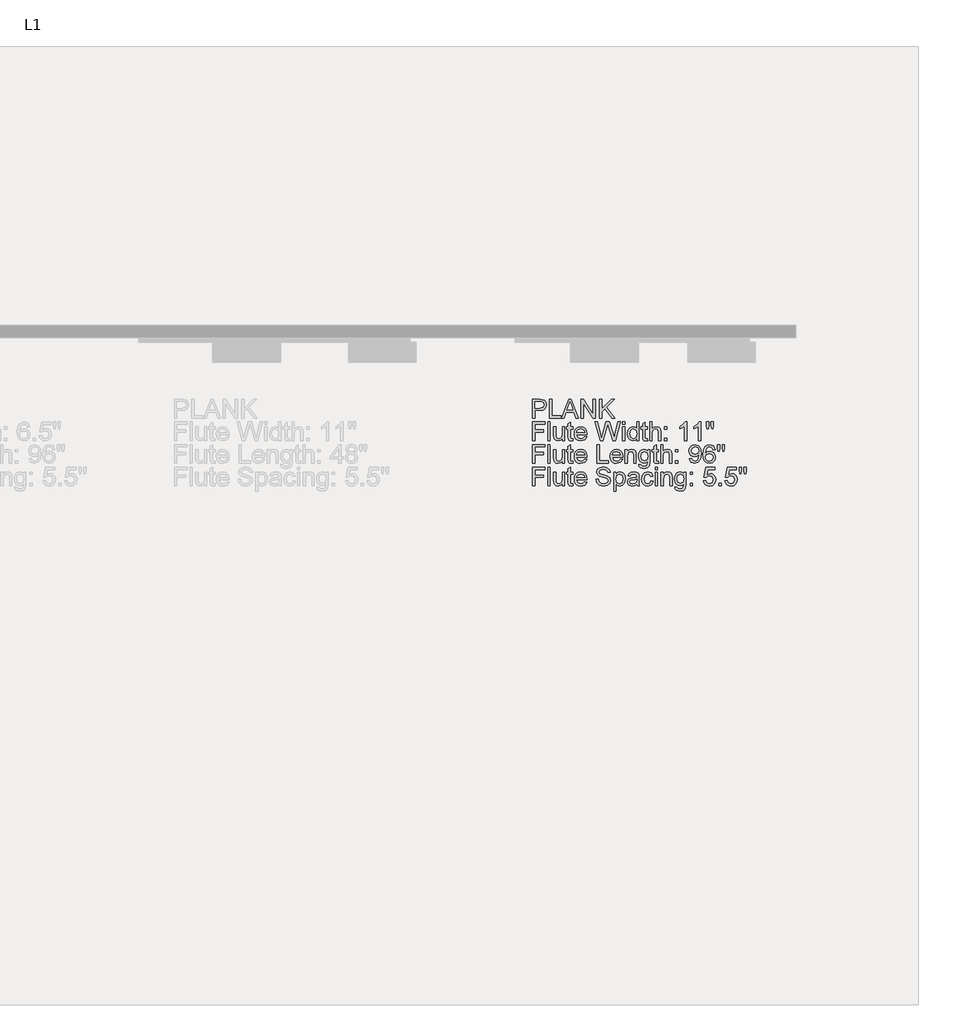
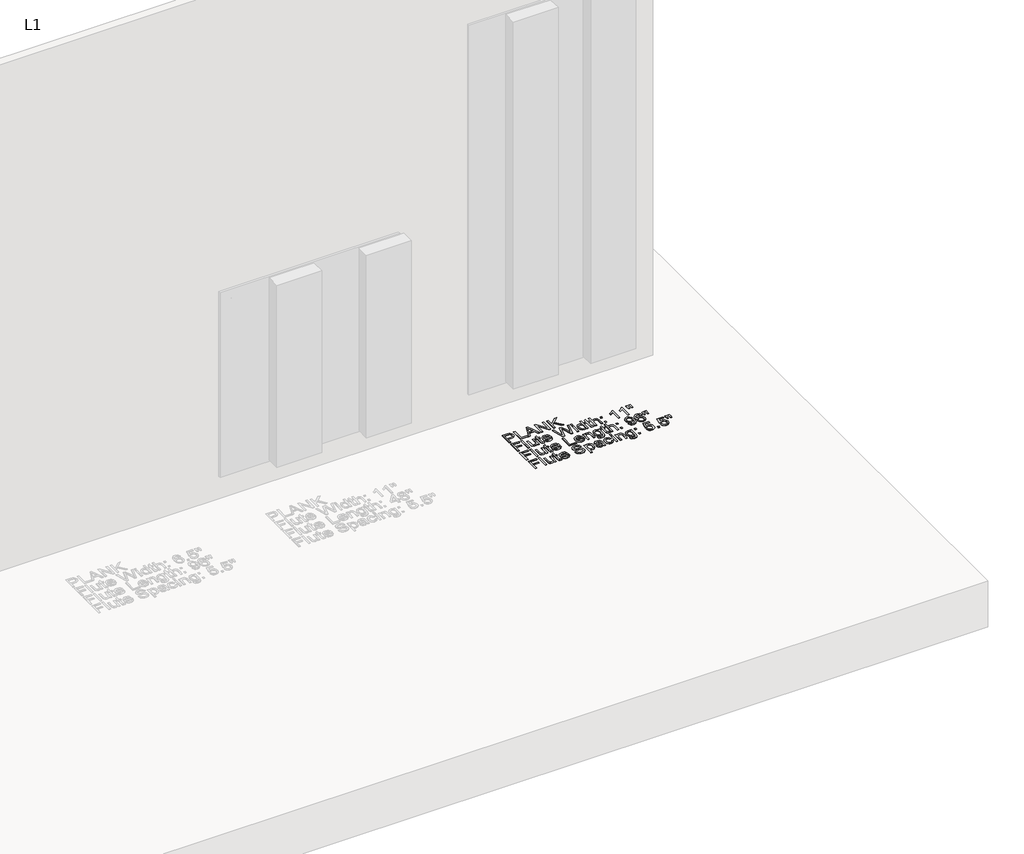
# One storey, part 16 of 17: 1 proxy.
"""IFC4 building model written with IfcOpenShell, lengths in millimetres."""

import ifcopenshell
import ifcopenshell.guid

model = None  # the IFC model being written
_history = None  # IfcOwnerHistory: only IFC2X3 demands one
_inside = {}  # id of a spatial element -> (the spatial element, [elements in it])
_under = {}  # id of a project, library or spatial element -> (it, [spatial elements below it])
_declared = {}  # id of a project -> (the project, [libraries it declares])
_typed = {}  # id of a type object -> (the type object, [elements of that type])
_made_of = {}  # id of a material, layer set ... -> (it, [elements and type objects made of it])


def new_model(schema):
    """Start an empty IFC model of exactly this schema.

    Asked for "IFC4X3", IfcOpenShell would pick the latest addendum, in which some entities
    have other attributes; the version numbers below select the first issue.
    IFC2X3 requires an IfcOwnerHistory on every rooted entity: one is made here for all.
    """
    global model, _history
    if schema == "IFC4X3":
        model = ifcopenshell.file(schema_version=(4, 3, 0, 0))
    else:
        model = ifcopenshell.file(schema=schema)
    _inside.clear()
    _under.clear()
    _declared.clear()
    _typed.clear()
    _made_of.clear()
    _history = None
    if model.schema == "IFC2X3":
        org = make("IfcOrganization", Name="unknown")
        user = make(
            "IfcPersonAndOrganization",
            ThePerson=make("IfcPerson", FamilyName="unknown"),
            TheOrganization=org,
        )
        app = make(
            "IfcApplication",
            ApplicationDeveloper=org,
            Version="unknown",
            ApplicationFullName="unknown",
            ApplicationIdentifier="unknown",
        )
        _history = make(
            "IfcOwnerHistory",
            OwningUser=user,
            OwningApplication=app,
            ChangeAction="ADDED",
            CreationDate=0,
        )
    return model


def make(cls, **values):
    """One entity of the class cls with the attributes given. An attribute that is None is left unset."""
    return model.create_entity(
        cls, **{name: value for name, value in values.items() if value is not None}
    )


def rooted(cls, **values):
    """An entity with a GlobalId (a new one), such as an element, a storey or a relation."""
    return make(cls, GlobalId=ifcopenshell.guid.new(), OwnerHistory=_history, **values)


def si_unit(unit_type, name, prefix=None):
    """IfcSIUnit, for example si_unit("LENGTHUNIT", "METRE", prefix="MILLI")."""
    return make("IfcSIUnit", UnitType=unit_type, Prefix=prefix, Name=name)


def assignment(units):
    """IfcUnitAssignment: the units of a project."""
    return None if units is None else make("IfcUnitAssignment", Units=units)


def point(xyz):
    """IfcCartesianPoint."""
    return None if xyz is None else make("IfcCartesianPoint", Coordinates=xyz)


def direction(xyz):
    """IfcDirection."""
    return None if xyz is None else make("IfcDirection", DirectionRatios=xyz)


def frame(location, z_axis=None, x_axis=None):
    """IfcAxis2Placement3D, a coordinate frame: its origin and axes. An axis left out is left unset."""
    return make(
        "IfcAxis2Placement3D",
        Location=point(location),
        Axis=direction(z_axis),
        RefDirection=direction(x_axis),
    )


def origin():
    """The frame at (0, 0, 0) with its axes left unset."""
    return frame((0.0, 0.0, 0.0))


def origin_with_axes():
    """The frame at (0, 0, 0) with the z axis (0, 0, 1) and the x axis (1, 0, 0) written out."""
    return frame((0.0, 0.0, 0.0), z_axis=(0.0, 0.0, 1.0), x_axis=(1.0, 0.0, 0.0))


def place(relative_to, where):
    """IfcLocalPlacement: puts the frame where relative to a parent placement (None: the world)."""
    return make(
        "IfcLocalPlacement", PlacementRelTo=relative_to, RelativePlacement=where
    )


def context(
    kind, dimensions, precision=None, world=None, true_north=None, identifier=None
):
    """IfcGeometricRepresentationContext, for example the 3D "Model" context."""
    return make(
        "IfcGeometricRepresentationContext",
        ContextIdentifier=identifier,
        ContextType=kind,
        CoordinateSpaceDimension=dimensions,
        Precision=precision,
        WorldCoordinateSystem=world,
        TrueNorth=true_north,
    )


def project(units=None, contexts=None):
    """IfcProject with its units and contexts."""
    return rooted(
        "IfcProject",
        Name="project",
        RepresentationContexts=contexts,
        UnitsInContext=assignment(units),
    )


def spatial(cls, under=None, at=None, **own):
    """A site, building, storey or space (cls), placed at a placement, below another one or the project."""
    s = rooted(cls, ObjectPlacement=at, **own)
    if under is not None:
        _under.setdefault(under.id(), (under, []))[1].append(s)
    return s


def polyline(points):
    """IfcPolyline through the points."""
    return make("IfcPolyline", Points=[point(p) for p in points])


def outline(outer, holes=None, kind="AREA"):
    """IfcArbitraryClosedProfileDef: a profile drawn as a closed curve; with holes, ...WithVoids."""
    if holes is None:
        return make("IfcArbitraryClosedProfileDef", ProfileType=kind, OuterCurve=outer)
    return make(
        "IfcArbitraryProfileDefWithVoids",
        ProfileType=kind,
        OuterCurve=outer,
        InnerCurves=holes,
    )


def extrude(swept, where, along, depth):
    """IfcExtrudedAreaSolid: the profile swept, set in the frame where, extruded along a direction by depth."""
    return make(
        "IfcExtrudedAreaSolid",
        SweptArea=swept,
        Position=where,
        ExtrudedDirection=direction(along),
        Depth=depth,
    )


def shape(context_of_items, identifier, shape_type, items):
    """IfcShapeRepresentation: the items that make up one representation, for example the "Body"."""
    return make(
        "IfcShapeRepresentation",
        ContextOfItems=context_of_items,
        RepresentationIdentifier=identifier,
        RepresentationType=shape_type,
        Items=items,
    )


def made_of(thing, what):
    """Note that an element or type object is made of a material, layer set ...; save() writes the relation."""
    if what is not None:
        _made_of.setdefault(what.id(), (what, []))[1].append(thing)
    return thing


def element(
    cls,
    number,
    at=None,
    inside=None,
    cuts=None,
    type_object=None,
    material=None,
    context=None,
    identifier="Body",
    shape_type=None,
    held_by="IfcProductDefinitionShape",
    body=None,
    shapes=None,
    **own,
):
    """One element of the class cls, such as IfcWall. Its Tag is "e" and its number.

    at: its placement. inside: the storey or other place that contains it. cuts: it is an
    opening in that element (IfcRelVoidsElement). A single representation is given by context,
    identifier, shape_type and body (its items); several are given by shapes. held_by: the class
    of the entity that holds the representations. save() writes the other relations.
    """
    e = rooted(cls, Tag="e%d" % number, ObjectPlacement=at, **own)
    if body is not None:
        shapes = [shape(context, identifier, shape_type, body)]
    if shapes is not None:
        e.Representation = make(held_by, Representations=shapes)
    if inside is not None:
        _inside.setdefault(inside.id(), (inside, []))[1].append(e)
    if cuts is not None:
        rooted(
            "IfcRelVoidsElement", RelatingBuildingElement=cuts, RelatedOpeningElement=e
        )
    if type_object is not None:
        _typed.setdefault(type_object.id(), (type_object, []))[1].append(e)
    return made_of(e, material)


def aggregate(whole, parts):
    """IfcRelAggregates: a whole, such as a stair, and the parts it consists of."""
    return rooted("IfcRelAggregates", RelatingObject=whole, RelatedObjects=parts)


def save(model, path):
    """Write the relations noted so far, then the file.

    IfcRelAggregates (storeys below a building ...), IfcRelContainedInSpatialStructure (elements
    in a storey), IfcRelDefinesByType, IfcRelAssociatesMaterial and IfcRelDeclares: one each for
    every whole, place, type object, material and project.
    """
    for whole, parts in _under.values():
        aggregate(whole, parts)
    for where, things in _inside.values():
        rooted(
            "IfcRelContainedInSpatialStructure",
            RelatedElements=things,
            RelatingStructure=where,
        )
    for kind, things in _typed.values():
        rooted("IfcRelDefinesByType", RelatedObjects=things, RelatingType=kind)
    for what, things in _made_of.values():
        rooted("IfcRelAssociatesMaterial", RelatedObjects=things, RelatingMaterial=what)
    for by, libraries in _declared.values():
        rooted("IfcRelDeclares", RelatingContext=by, RelatedDefinitions=libraries)
    model.write(path)


model = new_model("IFC4")

# Units and contexts
model_context = context("Model", 3, world=origin())
ifc_project = project(units=[si_unit("LENGTHUNIT", "METRE", prefix="MILLI")], contexts=[model_context])

# Site, building, storey
site = spatial("IfcSite", under=ifc_project)
building = spatial("IfcBuilding", under=site)
storey = spatial("IfcBuildingStorey", under=building, Name="L1", Elevation=0.0)

# Proxy
placement = place(None, origin())
element("IfcBuildingElementProxy", 1, Name="3\" Arial", ObjectType="3\" Arial", at=placement, inside=storey, context=model_context, shape_type="SweptSolid", body=[
    extrude(outline(polyline([(17616.9224056, -355.6), (17616.9224056, -279.0522917), (17645.2914049, -279.0522917), (17656.728709, -279.7811395), (17666.0261907, -283.3599691), (17672.0532014, -290.7605776), (17674.3331868, -301.198052), (17672.7937295, -310.2198797), (17668.1753573, -317.7372908), (17659.538978, -322.8111928), (17645.9454991, -324.5024935), (17626.4908691, -324.5024935), (17626.4908691, -355.6), (17616.9224056, -355.6)]), holes=[polyline([(17626.4908691, -314.9340299), (17646.5061513, -314.9340299), (17660.5972089, -311.4206097), (17664.7647233, -301.5344433), (17662.307198, -293.6105594), (17655.850354, -289.2748494), (17646.2818904, -288.6207552), (17626.4908691, -288.6207552), (17626.4908691, -314.9340299)])]), origin_with_axes(), (0.0, 0.0, 1.0), 3.175),
    extrude(outline(polyline([(17687.4898242, -355.6), (17687.4898242, -279.0522917), (17697.0582878, -279.0522917), (17697.0582878, -346.0315365), (17735.3321419, -346.0315365), (17735.3321419, -355.6), (17687.4898242, -355.6)])), origin_with_axes(), (0.0, 0.0, 1.0), 3.175),
    extrude(outline(polyline([(17737.2009825, -355.6), (17767.7565252, -279.0522917), (17775.90467, -279.0522917), (17806.4415243, -355.6), (17796.331097, -355.6), (17787.5849233, -331.6788411), (17756.0388951, -331.6788411), (17747.2927214, -355.6), (17737.2009825, -355.6)]), holes=[polyline([(17759.5523153, -322.1103776), (17784.0901915, -322.1103776), (17777.1754815, -303.2911534), (17771.8119092, -288.6207552), (17767.0463658, -301.6465737), (17759.5523153, -322.1103776)])]), origin_with_axes(), (0.0, 0.0, 1.0), 3.175),
    extrude(outline(polyline([(17816.664082, -355.6), (17816.664082, -279.0522917), (17826.9053282, -279.0522917), (17866.8985156, -339.696167), (17866.8985156, -279.0522917), (17876.4669792, -279.0522917), (17876.4669792, -355.6), (17866.225733, -355.6), (17826.2325456, -294.9374362), (17826.2325456, -355.6), (17816.664082, -355.6)])), origin_with_axes(), (0.0, 0.0, 1.0), 3.175),
    extrude(outline(polyline([(17893.2117904, -355.6), (17893.2117904, -279.0522917), (17902.7802539, -279.0522917), (17902.7802539, -316.5225444), (17942.0259052, -279.0522917), (17955.4068034, -279.0522917), (17922.4404563, -310.5235663), (17956.6028613, -355.6), (17944.9039196, -355.6), (17915.6565652, -316.9897545), (17902.7802539, -329.2867253), (17902.7802539, -355.6), (17893.2117904, -355.6)])), origin_with_axes(), (0.0, 0.0, 1.0), 3.175),
    extrude(outline(polyline([(17616.9224056, -448.5448112), (17616.9224056, -371.9971029), (17668.3528971, -371.9971029), (17668.3528971, -381.5655664), (17626.4908691, -381.5655664), (17626.4908691, -404.2906673), (17662.3726074, -404.2906673), (17662.3726074, -413.8591309), (17626.4908691, -413.8591309), (17626.4908691, -448.5448112), (17616.9224056, -448.5448112)])), origin_with_axes(), (0.0, 0.0, 1.0), 3.175),
    extrude(outline(polyline([(17680.3134766, -448.5448112), (17680.3134766, -371.9971029), (17689.8819401, -371.9971029), (17689.8819401, -448.5448112), (17680.3134766, -448.5448112)])), origin_with_axes(), (0.0, 0.0, 1.0), 3.175),
    extrude(outline(polyline([(17740.1163737, -448.5448112), (17740.1163737, -438.8829056), (17732.6223232, -447.0263783), (17722.8482872, -449.7408691), (17713.84982, -447.8346518), (17707.6452694, -443.05042), (17704.7952876, -436.0048912), (17704.2346354, -427.1092103), (17704.2346354, -392.3300879), (17713.803099, -392.3300879), (17713.803099, -422.6053046), (17714.3824395, -432.3606522), (17718.1668416, -438.0886484), (17725.2964683, -440.1724056), (17733.2857615, -438.0419274), (17738.5652361, -432.2391775), (17740.1163737, -421.5774423), (17740.1163737, -392.3300879), (17749.6848372, -392.3300879), (17749.6848372, -448.5448112), (17740.1163737, -448.5448112)])), origin_with_axes(), (0.0, 0.0, 1.0), 3.175),
    extrude(outline(polyline([(17783.1744596, -440.5648621), (17784.3705176, -448.8251373), (17777.2128583, -449.7408691), (17769.1955324, -448.1523547), (17765.1962137, -443.9848403), (17764.0375326, -433.1268768), (17764.0375326, -401.8985514), (17756.8611849, -401.8985514), (17756.8611849, -392.3300879), (17764.0375326, -392.3300879), (17764.0375326, -378.6688636), (17773.6059961, -373.0436536), (17773.6059961, -392.3300879), (17783.1744596, -392.3300879), (17783.1744596, -401.8985514), (17773.6059961, -401.8985514), (17773.6059961, -432.8465507), (17774.110583, -437.7802897), (17775.7458185, -439.5276556), (17779.0069452, -440.1724056), (17783.1744596, -440.5648621)])), origin_with_axes(), (0.0, 0.0, 1.0), 3.175),
    extrude(outline(polyline([(17832.1007049, -431.8), (17841.4822843, -432.9960579), (17832.708078, -445.3490939), (17816.3650675, -449.7408691), (17805.138008, -447.846332), (17796.4992927, -442.1627208), (17790.9908852, -433.0591313), (17789.1547494, -420.9046597), (17791.0095736, -408.3413792), (17796.5740463, -398.9457834), (17805.0959591, -393.0869683), (17815.8231038, -391.1340299), (17826.2161932, -393.0822962), (17834.5208533, -398.927095), (17839.9661875, -408.3040024), (17841.7812988, -420.8485945), (17841.7252336, -423.4275944), (17798.7232129, -423.4275944), (17804.2269483, -435.855384), (17816.5519516, -440.1724056), (17825.9335311, -438.1727462), (17832.1007049, -431.8)]), holes=[polyline([(17798.7232129, -413.8591309), (17832.2128353, -413.8591309), (17828.3817122, -405.1877108), (17815.785727, -400.7024935), (17804.0026874, -404.2813231), (17798.7232129, -413.8591309)])]), origin_with_axes(), (0.0, 0.0, 1.0), 3.175),
    extrude(outline(polyline([(17896.14587, -448.5448112), (17875.2709212, -371.9971029), (17885.1383993, -371.9971029), (17897.2484859, -422.3062901), (17900.986167, -437.8363549), (17904.9854857, -424.100377), (17920.1604709, -371.9971029), (17934.3823474, -371.9971029), (17945.4085065, -409.7663701), (17953.6127165, -437.8363549), (17957.2382671, -422.7548118), (17969.4417958, -371.9971029), (17979.3279622, -371.9971029), (17958.4717019, -448.5448112), (17948.2304557, -448.5448112), (17929.8597533, -389.4894503), (17927.2994417, -381.2478635), (17924.4214273, -391.1714068), (17907.6953045, -448.5448112), (17896.14587, -448.5448112)])), origin_with_axes(), (0.0, 0.0, 1.0), 3.175),
    extrude(outline(polyline([(17987.7003678, -381.5655664), (17987.7003678, -371.9971029), (17997.2688314, -371.9971029), (17997.2688314, -381.5655664), (17987.7003678, -381.5655664)])), origin_with_axes(), (0.0, 0.0, 1.0), 3.175),
    extrude(outline(polyline([(17987.7003678, -448.5448112), (17987.7003678, -392.3300879), (17997.2688314, -392.3300879), (17997.2688314, -448.5448112), (17987.7003678, -448.5448112)])), origin_with_axes(), (0.0, 0.0, 1.0), 3.175),
    extrude(outline(polyline([(18046.307207, -448.5448112), (18046.307207, -439.5183114), (18039.9765097, -447.1852297), (18031.2256639, -449.7408691), (18019.3772149, -446.0405649), (18011.0048093, -435.7152209), (18008.0333529, -420.4935148), (18010.7712043, -405.2624644), (18018.9754142, -394.778269), (18031.1882871, -391.1340299), (18040.0092144, -393.7410625), (18046.307207, -400.5156094), (18046.307207, -371.9971029), (18055.8756706, -371.9971029), (18055.8756706, -448.5448112), (18046.307207, -448.5448112)]), holes=[polyline([(18017.6018164, -420.4561379), (18021.918838, -435.2666992), (18032.104019, -440.1724056), (18042.1677252, -435.4909601), (18046.307207, -421.1849858), (18042.0929716, -405.6549209), (18031.7115625, -400.7024935), (18021.638512, -405.4586927), (18017.6018164, -420.4561379)])]), origin_with_axes(), (0.0, 0.0, 1.0), 3.175),
    extrude(outline(polyline([(18090.5613509, -440.5648621), (18091.7574089, -448.8251373), (18084.5997496, -449.7408691), (18076.5824237, -448.1523547), (18072.583105, -443.9848403), (18071.4244238, -433.1268768), (18071.4244238, -401.8985514), (18064.2480762, -401.8985514), (18064.2480762, -392.3300879), (18071.4244238, -392.3300879), (18071.4244238, -378.6688636), (18080.9928874, -373.0436536), (18080.9928874, -392.3300879), (18090.5613509, -392.3300879), (18090.5613509, -401.8985514), (18080.9928874, -401.8985514), (18080.9928874, -432.8465507), (18081.4974743, -437.7802897), (18083.1327098, -439.5276556), (18086.3938365, -440.1724056), (18090.5613509, -440.5648621)])), origin_with_axes(), (0.0, 0.0, 1.0), 3.175),
    extrude(outline(polyline([(18100.1298145, -448.5448112), (18100.1298145, -371.9971029), (18109.698278, -371.9971029), (18109.698278, -400.1418413), (18117.1596238, -393.3859828), (18126.3496472, -391.1340299), (18137.0954802, -393.5915553), (18143.6177337, -400.3847906), (18145.5800163, -412.9620874), (18145.5800163, -448.5448112), (18136.0115527, -448.5448112), (18136.0115527, -413.9525729), (18132.9653427, -403.860834), (18124.3312994, -400.7024935), (18116.4915133, -402.8329717), (18111.2587598, -408.607689), (18109.698278, -418.6807394), (18109.698278, -448.5448112), (18100.1298145, -448.5448112)])), origin_with_axes(), (0.0, 0.0, 1.0), 3.175),
    extrude(outline(polyline([(18161.1287695, -401.8985514), (18161.1287695, -392.3300879), (18170.6972331, -392.3300879), (18170.6972331, -401.8985514), (18161.1287695, -401.8985514)])), origin_with_axes(), (0.0, 0.0, 1.0), 3.175),
    extrude(outline(polyline([(18161.1287695, -448.5448112), (18161.1287695, -438.9763477), (18170.6972331, -438.9763477), (18170.6972331, -448.5448112), (18161.1287695, -448.5448112)])), origin_with_axes(), (0.0, 0.0, 1.0), 3.175),
    extrude(outline(polyline([(18252.0291732, -448.5448112), (18242.4607096, -448.5448112), (18242.4607096, -388.8914213), (18233.396833, -395.3482654), (18223.3237826, -400.1792181), (18223.3237826, -391.1340299), (18237.3494308, -382.1822838), (18245.8619994, -371.9971029), (18252.0291732, -371.9971029), (18252.0291732, -448.5448112)])), origin_with_axes(), (0.0, 0.0, 1.0), 3.175),
    extrude(outline(polyline([(18310.6360124, -448.5448112), (18301.0675488, -448.5448112), (18301.0675488, -388.8914213), (18292.0036722, -395.3482654), (18281.9306218, -400.1792181), (18281.9306218, -391.1340299), (18295.95627, -382.1822838), (18304.4688386, -371.9971029), (18310.6360124, -371.9971029), (18310.6360124, -448.5448112)])), origin_with_axes(), (0.0, 0.0, 1.0), 3.175),
    extrude(outline(polyline([(18335.697164, -399.5064355), (18333.3611133, -384.7239069), (18333.3611133, -371.9971029), (18342.9295768, -371.9971029), (18342.9295768, -384.7239069), (18340.8364754, -399.5064355), (18335.697164, -399.5064355)])), origin_with_axes(), (0.0, 0.0, 1.0), 3.175),
    extrude(outline(polyline([(18354.7780258, -399.5064355), (18352.4980404, -384.7239069), (18352.4980404, -371.9971029), (18362.0665039, -371.9971029), (18362.0665039, -384.7239069), (18359.8238953, -399.5064355), (18354.7780258, -399.5064355)])), origin_with_axes(), (0.0, 0.0, 1.0), 3.175),
    extrude(outline(polyline([(17616.9224056, -541.4896224), (17616.9224056, -464.9419141), (17668.3528971, -464.9419141), (17668.3528971, -474.5103776), (17626.4908691, -474.5103776), (17626.4908691, -497.2354785), (17662.3726074, -497.2354785), (17662.3726074, -506.8039421), (17626.4908691, -506.8039421), (17626.4908691, -541.4896224), (17616.9224056, -541.4896224)])), origin_with_axes(), (0.0, 0.0, 1.0), 3.175),
    extrude(outline(polyline([(17680.3134766, -541.4896224), (17680.3134766, -464.9419141), (17689.8819401, -464.9419141), (17689.8819401, -541.4896224), (17680.3134766, -541.4896224)])), origin_with_axes(), (0.0, 0.0, 1.0), 3.175),
    extrude(outline(polyline([(17740.1163737, -541.4896224), (17740.1163737, -531.8277168), (17732.6223232, -539.9711895), (17722.8482872, -542.6856803), (17713.84982, -540.779463), (17707.6452694, -535.9952312), (17704.7952876, -528.9497024), (17704.2346354, -520.0540215), (17704.2346354, -485.2748991), (17713.803099, -485.2748991), (17713.803099, -515.5501158), (17714.3824395, -525.3054634), (17718.1668416, -531.0334596), (17725.2964683, -533.1172168), (17733.2857615, -530.9867386), (17738.5652361, -525.1839887), (17740.1163737, -514.5222535), (17740.1163737, -485.2748991), (17749.6848372, -485.2748991), (17749.6848372, -541.4896224), (17740.1163737, -541.4896224)])), origin_with_axes(), (0.0, 0.0, 1.0), 3.175),
    extrude(outline(polyline([(17783.1744596, -533.5096733), (17784.3705176, -541.7699485), (17777.2128583, -542.6856803), (17769.1955324, -541.0971659), (17765.1962137, -536.9296515), (17764.0375326, -526.071688), (17764.0375326, -494.8433626), (17756.8611849, -494.8433626), (17756.8611849, -485.2748991), (17764.0375326, -485.2748991), (17764.0375326, -471.6136748), (17773.6059961, -465.9884648), (17773.6059961, -485.2748991), (17783.1744596, -485.2748991), (17783.1744596, -494.8433626), (17773.6059961, -494.8433626), (17773.6059961, -525.7913619), (17774.110583, -530.7251009), (17775.7458185, -532.4724668), (17779.0069452, -533.1172168), (17783.1744596, -533.5096733)])), origin_with_axes(), (0.0, 0.0, 1.0), 3.175),
    extrude(outline(polyline([(17832.1007049, -524.7448112), (17841.4822843, -525.9408691), (17832.708078, -538.2939051), (17816.3650675, -542.6856803), (17805.138008, -540.7911432), (17796.4992927, -535.107532), (17790.9908852, -526.0039425), (17789.1547494, -513.8494709), (17791.0095736, -501.2861904), (17796.5740463, -491.8905946), (17805.0959591, -486.0317795), (17815.8231038, -484.0788411), (17826.2161932, -486.0271074), (17834.5208533, -491.8719062), (17839.9661875, -501.2488136), (17841.7812988, -513.7934057), (17841.7252336, -516.3724056), (17798.7232129, -516.3724056), (17804.2269483, -528.8001952), (17816.5519516, -533.1172168), (17825.9335311, -531.1175574), (17832.1007049, -524.7448112)]), holes=[polyline([(17798.7232129, -506.8039421), (17832.2128353, -506.8039421), (17828.3817122, -498.132522), (17815.785727, -493.6473047), (17804.0026874, -497.2261343), (17798.7232129, -506.8039421)])]), origin_with_axes(), (0.0, 0.0, 1.0), 3.175),
    extrude(outline(polyline([(17882.4472689, -541.4896224), (17882.4472689, -464.9419141), (17892.0157324, -464.9419141), (17892.0157324, -531.9211589), (17930.2895866, -531.9211589), (17930.2895866, -541.4896224), (17882.4472689, -541.4896224)])), origin_with_axes(), (0.0, 0.0, 1.0), 3.175),
    extrude(outline(polyline([(17979.2158318, -524.7448112), (17988.5974113, -525.9408691), (17979.823205, -538.2939051), (17963.4801945, -542.6856803), (17952.253135, -540.7911432), (17943.6144196, -535.107532), (17938.1060121, -526.0039425), (17936.2698763, -513.8494709), (17938.1247005, -501.2861904), (17943.6891732, -491.8905946), (17952.2110861, -486.0317795), (17962.9382307, -484.0788411), (17973.3313202, -486.0271074), (17981.6359803, -491.8719062), (17987.0813144, -501.2488136), (17988.8964258, -513.7934057), (17988.8403606, -516.3724056), (17945.8383398, -516.3724056), (17951.3420752, -528.8001952), (17963.6670786, -533.1172168), (17973.048658, -531.1175574), (17979.2158318, -524.7448112)]), holes=[polyline([(17945.8383398, -506.8039421), (17979.3279622, -506.8039421), (17975.4968391, -498.132522), (17962.9008539, -493.6473047), (17951.1178144, -497.2261343), (17945.8383398, -506.8039421)])]), origin_with_axes(), (0.0, 0.0, 1.0), 3.175),
    extrude(outline(polyline([(17998.4648893, -541.4896224), (17998.4648893, -485.2748991), (18008.0333529, -485.2748991), (18008.0333529, -493.1240293), (18015.3498636, -486.3401382), (18025.3388162, -484.0788411), (18034.3746602, -485.9009607), (18040.541834, -490.6851924), (18043.4105042, -497.7213771), (18043.9150911, -506.9721377), (18043.9150911, -541.4896224), (18034.3466276, -541.4896224), (18034.3466276, -508.2616377), (18033.2440117, -499.79579), (18029.3474792, -495.319917), (18022.7785047, -493.6473047), (18012.3970955, -497.4036742), (18008.0333529, -511.6629274), (18008.0333529, -541.4896224), (17998.4648893, -541.4896224)])), origin_with_axes(), (0.0, 0.0, 1.0), 3.175),
    extrude(outline(polyline([(18054.6796126, -546.2738542), (18064.2480762, -547.4699121), (18067.3503515, -552.5157816), (18076.6384889, -554.6462598), (18086.4312133, -552.2354555), (18091.1033147, -545.4702527), (18091.7574089, -534.3132747), (18085.0202387, -539.6955355), (18076.8066846, -541.4896224), (18066.9415426, -539.4011931), (18059.585319, -533.1359052), (18055.0089958, -523.950554), (18053.4835547, -513.1019347), (18056.2214061, -498.272685), (18064.1452899, -487.7791454), (18076.3394744, -484.0788411), (18084.8754036, -486.1719425), (18091.7574089, -492.4512467), (18091.7574089, -485.2748991), (18101.3258724, -485.2748991), (18101.3258724, -533.8086878), (18098.7094957, -552.3943069), (18090.4211879, -561.0376944), (18076.4516049, -564.2147233), (18060.5384277, -559.7388502), (18056.0415302, -554.1346647), (18054.6796126, -546.2738542)]), holes=[polyline([(18063.0520182, -512.4478405), (18067.1354348, -527.2584017), (18077.3860251, -531.9211589), (18087.6179271, -527.2864343), (18091.7574089, -512.7281666), (18087.4964524, -498.4595691), (18077.2365179, -493.6473047), (18067.1915, -498.3848154), (18063.0520182, -512.4478405)])]), origin_with_axes(), (0.0, 0.0, 1.0), 3.175),
    extrude(outline(polyline([(18136.0115527, -533.5096733), (18137.2076107, -541.7699485), (18130.0499514, -542.6856803), (18122.0326255, -541.0971659), (18118.0333068, -536.9296515), (18116.8746257, -526.071688), (18116.8746257, -494.8433626), (18109.698278, -494.8433626), (18109.698278, -485.2748991), (18116.8746257, -485.2748991), (18116.8746257, -471.6136748), (18126.4430892, -465.9884648), (18126.4430892, -485.2748991), (18136.0115527, -485.2748991), (18136.0115527, -494.8433626), (18126.4430892, -494.8433626), (18126.4430892, -525.7913619), (18126.9476761, -530.7251009), (18128.5829116, -532.4724668), (18131.8440383, -533.1172168), (18136.0115527, -533.5096733)])), origin_with_axes(), (0.0, 0.0, 1.0), 3.175),
    extrude(outline(polyline([(18145.5800163, -541.4896224), (18145.5800163, -464.9419141), (18155.1484798, -464.9419141), (18155.1484798, -493.0866525), (18162.6098257, -486.330794), (18171.799849, -484.0788411), (18182.5456821, -486.5363664), (18189.0679355, -493.3296018), (18191.0302181, -505.9068986), (18191.0302181, -541.4896224), (18181.4617546, -541.4896224), (18181.4617546, -506.8973841), (18178.4155445, -496.8056452), (18169.7815012, -493.6473047), (18161.9417152, -495.7777829), (18156.7089617, -501.5525002), (18155.1484798, -511.6255506), (18155.1484798, -541.4896224), (18145.5800163, -541.4896224)])), origin_with_axes(), (0.0, 0.0, 1.0), 3.175),
    extrude(outline(polyline([(18206.5789714, -494.8433626), (18206.5789714, -485.2748991), (18216.1474349, -485.2748991), (18216.1474349, -494.8433626), (18206.5789714, -494.8433626)])), origin_with_axes(), (0.0, 0.0, 1.0), 3.175),
    extrude(outline(polyline([(18206.5789714, -541.4896224), (18206.5789714, -531.9211589), (18216.1474349, -531.9211589), (18216.1474349, -541.4896224), (18206.5789714, -541.4896224)])), origin_with_axes(), (0.0, 0.0, 1.0), 3.175),
    extrude(outline(polyline([(18262.7936947, -522.3526953), (18272.3621582, -521.1566374), (18276.6604914, -530.2859234), (18284.8086362, -533.1172168), (18292.5549802, -531.2950973), (18297.8064221, -526.4267677), (18300.93673, -518.1104273), (18302.319672, -507.0095145), (18302.2636068, -505.140674), (18294.6107048, -512.3917753), (18284.1171652, -515.1763477), (18275.3920159, -513.4757028), (18268.1292344, -508.3737681), (18263.2305361, -500.4919331), (18261.5976367, -490.4515874), (18263.3099619, -480.0795224), (18268.4469373, -471.9500661), (18276.1629126, -466.6939521), (18285.6122376, -464.9419141), (18299.2454293, -468.9412328), (18308.6270088, -480.3411601), (18311.8320703, -501.7580726), (18308.636353, -524.9971047), (18299.1332989, -538.1630862), (18284.3601144, -542.6856803), (18269.6523394, -537.3501406), (18262.7936947, -522.3526953)]), holes=[polyline([(18302.2636068, -490.2273265), (18298.1334692, -478.7526456), (18287.1633753, -474.5103776), (18275.6513176, -479.0796927), (18271.1661003, -490.9187975), (18275.4083683, -501.5244675), (18286.9017376, -505.6078841), (18297.9372409, -501.5244675), (18302.2636068, -490.2273265)])]), origin_with_axes(), (0.0, 0.0, 1.0), 3.175),
    extrude(outline(polyline([(18369.2428516, -485.2748991), (18359.674388, -486.470957), (18356.0488374, -478.4910079), (18346.4616854, -474.5103776), (18337.8276422, -476.8277399), (18331.2960445, -485.5271926), (18328.5768815, -502.5803624), (18337.0146965, -494.9461489), (18347.4708593, -492.4512467), (18356.3104751, -494.1565637), (18363.729772, -499.2725147), (18368.7616251, -507.0889402), (18370.4389095, -516.8956809), (18367.280569, -530.0990393), (18358.5904605, -539.443242), (18346.0505405, -542.6856803), (18335.1949131, -540.5365137), (18326.5491895, -534.0890139), (18320.8936109, -522.707775), (18319.008418, -505.7573914), (18321.1015194, -486.69989), (18327.3808236, -473.6693994), (18335.9541295, -467.1237854), (18347.0597144, -464.9419141), (18362.1786343, -470.3428632), (18369.2428516, -485.2748991)]), holes=[polyline([(18328.5768815, -516.7461737), (18330.7914576, -525.0344815), (18336.6783052, -531.052148), (18345.3030043, -533.1172168), (18356.5814569, -528.837572), (18360.870446, -517.2133838), (18356.6375222, -506.0844385), (18344.9105478, -502.0197103), (18333.3330807, -506.0844385), (18328.5768815, -516.7461737)])]), origin_with_axes(), (0.0, 0.0, 1.0), 3.175),
    extrude(outline(polyline([(18381.1473658, -492.4512467), (18378.8113151, -477.6687181), (18378.8113151, -464.9419141), (18388.3797787, -464.9419141), (18388.3797787, -477.6687181), (18386.2866773, -492.4512467), (18381.1473658, -492.4512467)])), origin_with_axes(), (0.0, 0.0, 1.0), 3.175),
    extrude(outline(polyline([(18400.2282276, -492.4512467), (18397.9482422, -477.6687181), (18397.9482422, -464.9419141), (18407.5167057, -464.9419141), (18407.5167057, -477.6687181), (18405.2740971, -492.4512467), (18400.2282276, -492.4512467)])), origin_with_axes(), (0.0, 0.0, 1.0), 3.175),
    extrude(outline(polyline([(17616.9224056, -634.4344336), (17616.9224056, -557.8867253), (17668.3528971, -557.8867253), (17668.3528971, -567.4551888), (17626.4908691, -567.4551888), (17626.4908691, -590.1802897), (17662.3726074, -590.1802897), (17662.3726074, -599.7487533), (17626.4908691, -599.7487533), (17626.4908691, -634.4344336), (17616.9224056, -634.4344336)])), origin_with_axes(), (0.0, 0.0, 1.0), 3.175),
    extrude(outline(polyline([(17680.3134766, -634.4344336), (17680.3134766, -557.8867253), (17689.8819401, -557.8867253), (17689.8819401, -634.4344336), (17680.3134766, -634.4344336)])), origin_with_axes(), (0.0, 0.0, 1.0), 3.175),
    extrude(outline(polyline([(17740.1163737, -634.4344336), (17740.1163737, -624.772528), (17732.6223232, -632.9160007), (17722.8482872, -635.6304915), (17713.84982, -633.7242742), (17707.6452694, -628.9400424), (17704.7952876, -621.8945136), (17704.2346354, -612.9988327), (17704.2346354, -578.2197103), (17713.803099, -578.2197103), (17713.803099, -608.494927), (17714.3824395, -618.2502746), (17718.1668416, -623.9782708), (17725.2964683, -626.062028), (17733.2857615, -623.9315498), (17738.5652361, -618.1287999), (17740.1163737, -607.4670647), (17740.1163737, -578.2197103), (17749.6848372, -578.2197103), (17749.6848372, -634.4344336), (17740.1163737, -634.4344336)])), origin_with_axes(), (0.0, 0.0, 1.0), 3.175),
    extrude(outline(polyline([(17783.1744596, -626.4544845), (17784.3705176, -634.7147597), (17777.2128583, -635.6304915), (17769.1955324, -634.0419771), (17765.1962137, -629.8744627), (17764.0375326, -619.0164992), (17764.0375326, -587.7881738), (17756.8611849, -587.7881738), (17756.8611849, -578.2197103), (17764.0375326, -578.2197103), (17764.0375326, -564.558486), (17773.6059961, -558.933276), (17773.6059961, -578.2197103), (17783.1744596, -578.2197103), (17783.1744596, -587.7881738), (17773.6059961, -587.7881738), (17773.6059961, -618.7361731), (17774.110583, -623.6699121), (17775.7458185, -625.417278), (17779.0069452, -626.062028), (17783.1744596, -626.4544845)])), origin_with_axes(), (0.0, 0.0, 1.0), 3.175),
    extrude(outline(polyline([(17832.1007049, -617.6896224), (17841.4822843, -618.8856803), (17832.708078, -631.2387163), (17816.3650675, -635.6304915), (17805.138008, -633.7359544), (17796.4992927, -628.0523432), (17790.9908852, -618.9487537), (17789.1547494, -606.7942821), (17791.0095736, -594.2310016), (17796.5740463, -584.8354058), (17805.0959591, -578.9765907), (17815.8231038, -577.0236523), (17826.2161932, -578.9719186), (17834.5208533, -584.8167174), (17839.9661875, -594.1936248), (17841.7812988, -606.7382169), (17841.7252336, -609.3172168), (17798.7232129, -609.3172168), (17804.2269483, -621.7450064), (17816.5519516, -626.062028), (17825.9335311, -624.0623686), (17832.1007049, -617.6896224)]), holes=[polyline([(17798.7232129, -599.7487533), (17832.2128353, -599.7487533), (17828.3817122, -591.0773332), (17815.785727, -586.5921159), (17804.0026874, -590.1709455), (17798.7232129, -599.7487533)])]), origin_with_axes(), (0.0, 0.0, 1.0), 3.175),
    extrude(outline(polyline([(17878.8590951, -608.1211589), (17888.4275586, -608.1211589), (17891.5111455, -617.6989666), (17899.0425728, -623.7540099), (17910.5172537, -626.062028), (17920.5155506, -624.3146621), (17926.9723946, -619.5117419), (17929.0935286, -613.0922747), (17927.5050142, -607.1213292), (17921.0014491, -602.7762749), (17907.0692429, -599.1226917), (17892.0717976, -594.4038693), (17883.9329971, -587.2835869), (17881.2512109, -577.7711886), (17884.5684029, -566.9412577), (17894.2583411, -559.2976999), (17908.4428407, -556.6906673), (17923.5804491, -559.4191745), (17933.672188, -567.4365004), (17937.4659342, -579.4157682), (17927.8974707, -579.4157682), (17922.4778332, -569.585667), (17908.8166088, -566.2591309), (17895.1180077, -569.5482902), (17890.8196745, -577.4908625), (17893.8658846, -584.1252464), (17909.4893914, -589.4701303), (17926.4210867, -594.2730505), (17935.6811915, -602.0287387), (17938.6619922, -612.8493254), (17935.2326698, -624.2959737), (17925.3651918, -632.6496909), (17910.8910218, -635.6304915), (17893.8004751, -632.4160858), (17882.9892326, -622.7354918), (17878.8590951, -608.1211589)])), origin_with_axes(), (0.0, 0.0, 1.0), 3.175),
    extrude(outline(polyline([(17951.8186296, -655.9634766), (17951.8186296, -578.2197103), (17961.3870931, -578.2197103), (17961.3870931, -587.6012898), (17968.0027886, -579.6680617), (17976.9358464, -577.0236523), (17989.0646214, -580.7239566), (17996.9885053, -591.1520868), (17999.6609473, -605.8972386), (17996.6427698, -621.3992709), (17987.8779077, -631.9582199), (17975.7771652, -635.6304915), (17967.4514806, -633.1729662), (17961.3870931, -626.9590715), (17961.3870931, -655.9634766), (17951.8186296, -655.9634766)]), holes=[polyline([(17961.3870931, -606.7755937), (17965.5265749, -621.3525498), (17975.5715928, -626.062028), (17985.8221831, -621.1843542), (17990.0924837, -606.0654343), (17985.9249693, -591.4511013), (17975.9640493, -586.5921159), (17965.806901, -591.75946), (17961.3870931, -606.7755937)])]), origin_with_axes(), (0.0, 0.0, 1.0), 3.175),
    extrude(outline(polyline([(18046.307207, -627.2580859), (18037.0284138, -633.7429626), (18026.7778234, -635.6304915), (18012.8829941, -631.089209), (18008.0333529, -619.4837093), (18009.8648166, -611.9149051), (18014.677081, -606.420514), (18021.3768743, -603.2808619), (18029.6558379, -601.8418547), (18046.2511418, -598.5526953), (18046.307207, -596.4222171), (18043.6721419, -589.3579999), (18033.0945044, -586.5921159), (18023.4139105, -588.4329238), (18018.7978744, -594.9645215), (18009.2294108, -593.7684635), (18013.3688926, -584.4242609), (18021.7039214, -578.9485581), (18034.3279392, -577.0236523), (18045.9240947, -578.7242972), (18052.4743808, -582.9945979), (18055.4084604, -589.4888187), (18055.8756706, -597.8612243), (18055.8756706, -609.7657385), (18056.3615691, -626.3890751), (18058.2677865, -634.4344336), (18048.6993229, -634.4344336), (18046.307207, -627.2580859)]), holes=[polyline([(18046.307207, -608.1211589), (18030.8705842, -611.0552385), (18022.6383417, -612.6063761), (18018.9100048, -615.1293109), (18017.6018164, -618.8109267), (18020.4517982, -623.987615), (18028.8148596, -626.062028), (18038.4954536, -623.7726983), (18044.737381, -618.2315862), (18046.2511418, -610.8309776), (18046.307207, -608.1211589)])]), origin_with_axes(), (0.0, 0.0, 1.0), 3.175),
    extrude(outline(polyline([(18104.9140462, -614.1014486), (18114.4825098, -615.2975065), (18106.8015752, -630.2388866), (18091.62659, -635.6304915), (18081.4484173, -633.7499707), (18073.4894926, -628.1084084), (18068.3525172, -618.9534258), (18066.6401921, -606.5326444), (18069.5649275, -590.6381556), (18078.4792969, -580.4249421), (18091.4957712, -577.0236523), (18106.0446948, -581.6957537), (18113.2864518, -594.9645215), (18103.7179883, -596.1605794), (18099.279492, -588.993576), (18091.5705248, -586.5921159), (18080.4789562, -591.3202824), (18076.2086556, -606.2710067), (18080.3855142, -621.361894), (18091.3088871, -626.062028), (18100.3260427, -623.1279484), (18104.9140462, -614.1014486)])), origin_with_axes(), (0.0, 0.0, 1.0), 3.175),
    extrude(outline(polyline([(18122.8549154, -567.4551888), (18122.8549154, -557.8867253), (18132.4233789, -557.8867253), (18132.4233789, -567.4551888), (18122.8549154, -567.4551888)])), origin_with_axes(), (0.0, 0.0, 1.0), 3.175),
    extrude(outline(polyline([(18122.8549154, -634.4344336), (18122.8549154, -578.2197103), (18132.4233789, -578.2197103), (18132.4233789, -634.4344336), (18122.8549154, -634.4344336)])), origin_with_axes(), (0.0, 0.0, 1.0), 3.175),
    extrude(outline(polyline([(18146.7760742, -634.4344336), (18146.7760742, -578.2197103), (18156.3445378, -578.2197103), (18156.3445378, -586.0688405), (18163.6610485, -579.2849494), (18173.6500011, -577.0236523), (18182.6858451, -578.8457719), (18188.8530189, -583.6300036), (18191.7216891, -590.6661883), (18192.226276, -599.9169489), (18192.226276, -634.4344336), (18182.6578125, -634.4344336), (18182.6578125, -601.2064489), (18181.5551966, -592.7406012), (18177.6586641, -588.2647282), (18171.0896896, -586.5921159), (18160.7082804, -590.3484854), (18156.3445378, -604.6077386), (18156.3445378, -634.4344336), (18146.7760742, -634.4344336)])), origin_with_axes(), (0.0, 0.0, 1.0), 3.175),
    extrude(outline(polyline([(18202.9907975, -639.2186654), (18212.5592611, -640.4147233), (18215.6615364, -645.4605928), (18224.9496738, -647.591071), (18234.7423982, -645.1802667), (18239.4144996, -638.4150639), (18240.0685938, -627.2580859), (18233.3314236, -632.6403467), (18225.1178695, -634.4344336), (18215.2527275, -632.3460043), (18207.8965039, -626.0807164), (18203.3201807, -616.8953652), (18201.7947396, -606.0467459), (18204.532591, -591.2174962), (18212.4564748, -580.7239566), (18224.6506593, -577.0236523), (18233.1865885, -579.1167537), (18240.0685938, -585.3960579), (18240.0685938, -578.2197103), (18249.6370573, -578.2197103), (18249.6370573, -626.753499), (18247.0206805, -645.3391181), (18238.7323728, -653.9825056), (18224.7627898, -657.1595345), (18208.8496126, -652.6836614), (18204.3527151, -647.0794759), (18202.9907975, -639.2186654)]), holes=[polyline([(18211.3632031, -605.3926517), (18215.4466197, -620.2032129), (18225.69721, -624.8659701), (18235.929112, -620.2312455), (18240.0685938, -605.6729778), (18235.8076373, -591.4043803), (18225.5477028, -586.5921159), (18215.5026849, -591.3296266), (18211.3632031, -605.3926517)])]), origin_with_axes(), (0.0, 0.0, 1.0), 3.175),
    extrude(outline(polyline([(18266.3818685, -587.7881738), (18266.3818685, -578.2197103), (18275.950332, -578.2197103), (18275.950332, -587.7881738), (18266.3818685, -587.7881738)])), origin_with_axes(), (0.0, 0.0, 1.0), 3.175),
    extrude(outline(polyline([(18266.3818685, -634.4344336), (18266.3818685, -624.8659701), (18275.950332, -624.8659701), (18275.950332, -634.4344336), (18266.3818685, -634.4344336)])), origin_with_axes(), (0.0, 0.0, 1.0), 3.175),
    extrude(outline(polyline([(18321.4005339, -614.1014486), (18330.9689974, -612.9053906), (18335.790606, -622.7635245), (18345.7889028, -626.062028), (18357.7868591, -621.4740245), (18362.0665039, -609.2985284), (18358.057841, -597.9359779), (18345.9384101, -593.7684635), (18337.5379719, -595.4317316), (18332.1650553, -599.7487533), (18322.5965918, -598.5526953), (18330.9689974, -559.0827832), (18368.0467936, -559.0827832), (18368.0467936, -568.6512467), (18338.7059972, -568.6512467), (18334.594548, -589.731768), (18348.5921637, -584.2), (18357.5345656, -585.9146612), (18364.9632067, -591.0586448), (18369.9670273, -598.8984308), (18371.6349675, -608.7004994), (18370.1352229, -618.268963), (18365.6359893, -626.4544845), (18357.0206345, -633.3364898), (18345.751526, -635.6304915), (18336.3535942, -634.1564436), (18328.8665518, -629.7342996), (18323.7342485, -622.8779909), (18321.4005339, -614.1014486)])), origin_with_axes(), (0.0, 0.0, 1.0), 3.175),
    extrude(outline(polyline([(18384.7916048, -634.4344336), (18384.7916048, -624.8659701), (18394.3600684, -624.8659701), (18394.3600684, -634.4344336), (18384.7916048, -634.4344336)])), origin_with_axes(), (0.0, 0.0, 1.0), 3.175),
    extrude(outline(polyline([(18409.9088216, -614.1014486), (18419.4772852, -612.9053906), (18424.2988937, -622.7635245), (18434.2971906, -626.062028), (18446.2951468, -621.4740245), (18450.5747917, -609.2985284), (18446.5661287, -597.9359779), (18434.4466979, -593.7684635), (18426.0462596, -595.4317316), (18420.6733431, -599.7487533), (18411.1048796, -598.5526953), (18419.4772852, -559.0827832), (18456.5550814, -559.0827832), (18456.5550814, -568.6512467), (18427.214285, -568.6512467), (18423.1028358, -589.731768), (18437.1004514, -584.2), (18446.0428534, -585.9146612), (18453.4714945, -591.0586448), (18458.475315, -598.8984308), (18460.1432552, -608.7004994), (18458.6435107, -618.268963), (18454.1442771, -626.4544845), (18445.5289222, -633.3364898), (18434.2598138, -635.6304915), (18424.861882, -634.1564436), (18417.3748396, -629.7342996), (18412.2425362, -622.8779909), (18409.9088216, -614.1014486)])), origin_with_axes(), (0.0, 0.0, 1.0), 3.175),
    extrude(outline(polyline([(18470.8517115, -585.3960579), (18468.5156608, -570.6135293), (18468.5156608, -557.8867253), (18478.0841244, -557.8867253), (18478.0841244, -570.6135293), (18475.991023, -585.3960579), (18470.8517115, -585.3960579)])), origin_with_axes(), (0.0, 0.0, 1.0), 3.175),
    extrude(outline(polyline([(18489.9325734, -585.3960579), (18487.6525879, -570.6135293), (18487.6525879, -557.8867253), (18497.2210514, -557.8867253), (18497.2210514, -570.6135293), (18494.9784428, -585.3960579), (18489.9325734, -585.3960579)])), origin_with_axes(), (0.0, 0.0, 1.0), 3.175),
])

save(model, "model.ifc")
